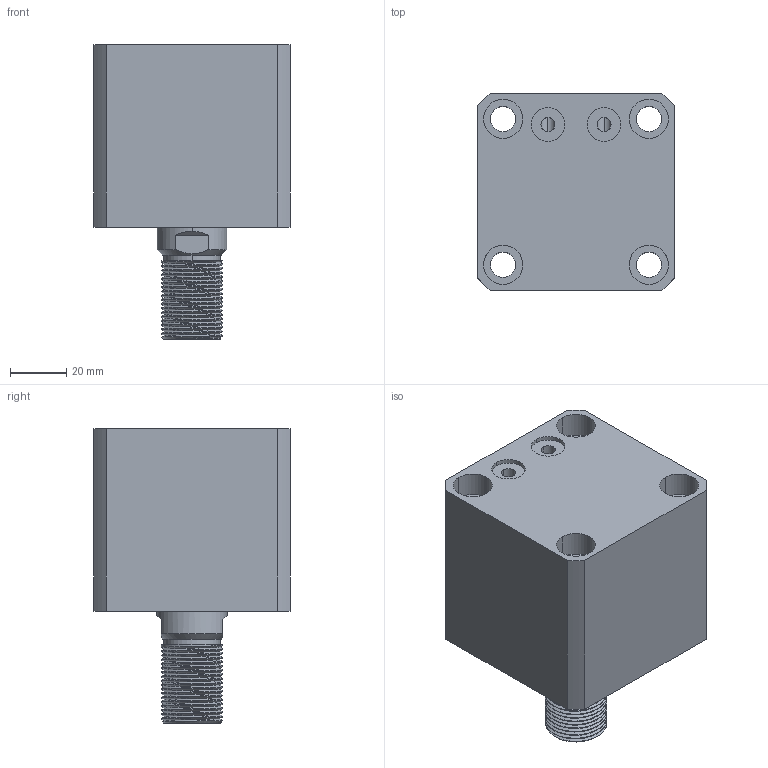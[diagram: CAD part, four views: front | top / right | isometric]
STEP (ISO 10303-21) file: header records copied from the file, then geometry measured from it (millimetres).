
FILE_DESCRIPTION (( 'STEP AP214' ), '1' );
FILE_NAME ('chtb-sdmb40x10w_asm.STEP', '2018-06-07T01:42:14', ( 'Windows' ), ( 'Microsoft' ), 'SwSTEP 2.0', 'SolidWorks 2015', '' );
FILE_SCHEMA (( 'AUTOMOTIVE_DESIGN' ));
Length unit declared in the file: millimetre
Products named in the file (4): CHTB-SDMB40X10NBT; CHTB-SD40X10WHSG; CHTB-SD40QG; chtb-sdmb40x10w_asm
Assembly tree (3 placements, depth 2):
  chtb-sdmb40x10w_asm
    CHTB-SD40QG
    CHTB-SD40X10WHSG
    CHTB-SDMB40X10NBT
Bounding box: 70 x 70 x 105 mm (x, y, z)
Volume: 295927.7 mm3; surface area: 67049.3 mm2
Topology: 3 solids, 4 shells, 201 faces, 539 edges, 359 vertices
Faces by surface type: cylinder 122, plane 38, bspline 16, torus 14, cone 11
Entity records: 13455 total; most frequent: CARTESIAN_POINT 8586, ORIENTED_EDGE 1066, DIRECTION 904, EDGE_CURVE 533, AXIS2_PLACEMENT_3D 374, VERTEX_POINT 359, EDGE_LOOP 238, ADVANCED_FACE 201
